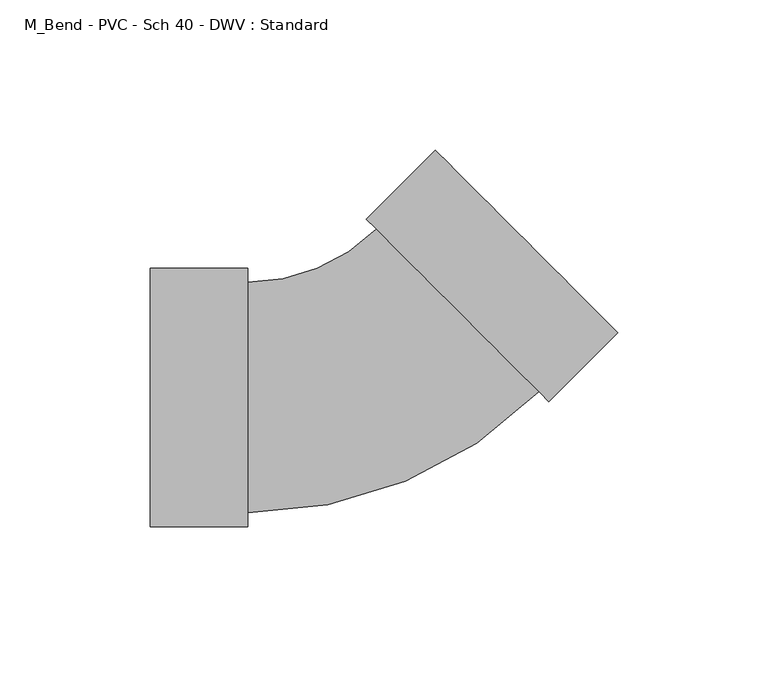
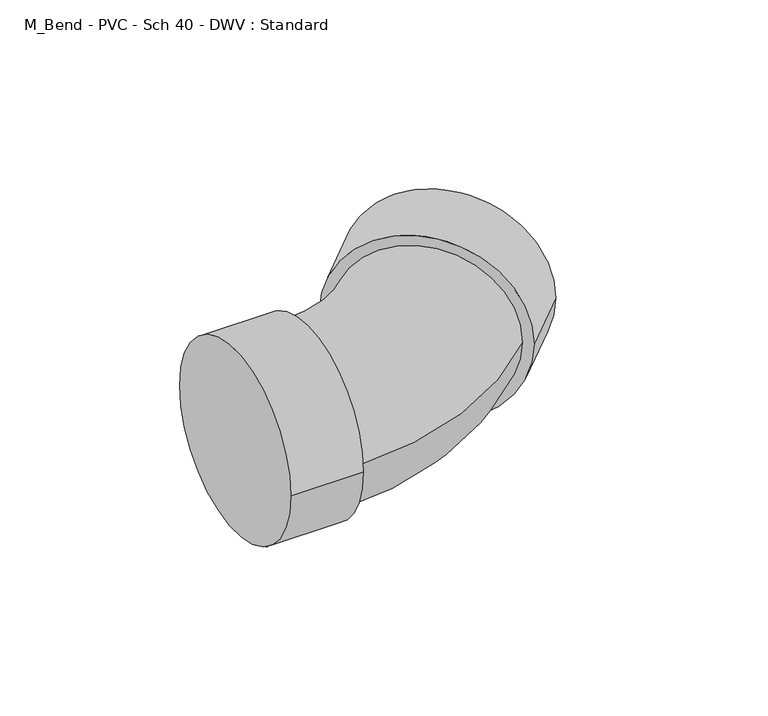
"""IFC4 building model written with IfcOpenShell, lengths in millimetres: pipe fitting geometry, M_Bend - PVC - Sch 40 - DWV : Standard."""

from ifc_helpers import new_model, si_unit, point, frame, origin, place, context, project, spatial, circle_curve, ellipse_curve, trimmed, source, transform, mapped, element, save
from ifc_brep_helpers import plane_surface, cylinder_surface, revolved_surface, advanced_brep


def m_bend_pvc_sch_40_dwv_standard_9e3ead78(model_context):
    return source(origin(), model_context, "Body", "AdvancedBrep", [
        advanced_brep(
        [(-73.4921875, -43.0871094, 0.0), (-73.4921875, 43.0871094, 0.0), (-40.9921875, -43.0871094, 0.0), (-40.9921875, 43.0871094, 0.0), (-40.9921875, -38.3640625, 0.0), (-40.9921875, 38.3640625, 0.0), (1.8619613, 56.1132233, 0.0), (56.1134615, 1.8547687, 0.0), (59.4529459, -1.4851438, 0.0), (-1.4775231, 59.4531358, 0.0), (82.4353891, 21.4943536, 0.0), (21.5049201, 82.4326333, 0.0)],
        [
            (0, 1, circle_curve(frame((-73.4921875, 0.0, 0.0), z_axis=(-1.0, 0.0, 0.0), x_axis=(0.0, 1.0, 0.0)), 43.0871094)),
            (1, 0, circle_curve(frame((-73.4921875, 0.0, 0.0), z_axis=(-1.0, 0.0, 0.0), x_axis=(0.0, 1.0, 0.0)), 43.0871094)),
            (2, 3, circle_curve(frame((-40.9921875, 0.0, 0.0), z_axis=(1.0, 0.0, 0.0), x_axis=(0.0, 1.0, 0.0)), 43.0871094)),
            (3, 2, circle_curve(frame((-40.9921875, 0.0, 0.0), z_axis=(1.0, 0.0, 0.0), x_axis=(0.0, 1.0, 0.0)), 43.0871094)),
            (4, 5, circle_curve(frame((-40.9921875, 0.0, 0.0), z_axis=(-1.0, 0.0, 0.0), x_axis=(0.0, 1.0, 0.0)), 38.3640625)),
            (5, 4, circle_curve(frame((-40.9921875, 0.0, 0.0), z_axis=(-1.0, 0.0, 0.0), x_axis=(0.0, 1.0, 0.0)), 38.3640625)),
            (0, 2),
            (3, 1),
            (6, 5, circle_curve(frame((-40.9921875, 98.9728656, 0.0), z_axis=(0.0, 0.0, -1.0), x_axis=(0.0, -1.0, 0.0)), 60.6088031)),
            (4, 7, circle_curve(frame((-40.9921875, 98.9728656, 0.0), z_axis=(0.0, 0.0, 1.0), x_axis=(0.0, -1.0, 0.0)), 137.3369281)),
            (7, 6, circle_curve(frame((28.9877114, 28.983996, 0.0), z_axis=(-0.7071520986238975, -0.7070614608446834, 0.0), x_axis=(-0.7070614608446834, 0.7071520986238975, 0.0)), 38.3640625)),
            (6, 7, circle_curve(frame((28.9877114, 28.983996, 0.0), z_axis=(-0.7071520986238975, -0.7070614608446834, 0.0), x_axis=(-0.7070614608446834, 0.7071520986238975, 0.0)), 38.3640625)),
            (8, 9, circle_curve(frame((28.9877114, 28.983996, 0.0), z_axis=(-0.7071520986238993, -0.7070614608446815, 0.0), x_axis=(-0.7070614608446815, 0.7071520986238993, 0.0)), 43.0871094)),
            (9, 8, circle_curve(frame((28.9877114, 28.983996, 0.0), z_axis=(-0.7071520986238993, -0.7070614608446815, 0.0), x_axis=(-0.7070614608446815, 0.7071520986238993, 0.0)), 43.0871094)),
            (10, 11, circle_curve(frame((51.9701546, 51.9634935, 0.0), z_axis=(0.7071520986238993, 0.7070614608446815, 0.0), x_axis=(-0.7070614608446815, 0.7071520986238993, 0.0)), 43.0871094)),
            (11, 10, circle_curve(frame((51.9701546, 51.9634935, 0.0), z_axis=(0.7071520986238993, 0.7070614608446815, 0.0), x_axis=(-0.7070614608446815, 0.7071520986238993, 0.0)), 43.0871094)),
            (8, 10),
            (11, 9),
        ],
        [
            plane_surface(frame((-73.4921875, 0.0, 0.0), z_axis=(-1.0, 0.0, 0.0), x_axis=(0.0, 0.0, 1.0))),
            plane_surface(frame((-40.9921875, 0.0, 0.0), z_axis=(1.0, 0.0, 0.0), x_axis=(0.0, 0.0, 1.0))),
            cylinder_surface(frame((-73.4921875, 0.0, 0.0), z_axis=(-1.0, 0.0, 0.0), x_axis=(0.0, 1.0, 0.0)), 43.0871094),
            revolved_surface(trimmed(ellipse_curve(frame((-40.9921875, 0.0, 0.0), z_axis=(-1.0, 0.0, 0.0), x_axis=(0.0, 1.0, 0.0)), 38.3640625, 38.3640625), [point((-40.9921875, -38.3640625, 0.0))], [point((-40.9921875, 38.3640625, 0.0))], True, "CARTESIAN"), (-40.9921875, 98.9728656, 0.0), (0.0, 0.0, 1.0)),
            revolved_surface(trimmed(ellipse_curve(frame((-40.9921875, 0.0, 0.0), z_axis=(-1.0, 0.0, 0.0), x_axis=(0.0, 1.0, 0.0)), 38.3640625, 38.3640625), [point((-40.9921875, 38.3640625, 0.0))], [point((-40.9921875, -38.3640625, 0.0))], True, "CARTESIAN"), (-40.9921875, 98.9728656, 0.0), (0.0, 0.0, 1.0)),
            plane_surface(frame((28.9877114, 28.983996, 0.0), z_axis=(-0.7071520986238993, -0.7070614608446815, 0.0), x_axis=(0.0, 0.0, 1.0))),
            plane_surface(frame((51.9701546, 51.9634935, 0.0), z_axis=(0.7071520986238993, 0.7070614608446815, 0.0), x_axis=(0.0, 0.0, 1.0))),
            cylinder_surface(frame((28.9877114, 28.983996, 0.0), z_axis=(-0.7071520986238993, -0.7070614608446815, 0.0), x_axis=(-0.7070614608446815, 0.7071520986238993, 0.0)), 43.0871094),
        ],
        [
            (0, [[1, 2]]),
            (1, [[3, 4], [5, 6]]),
            (2, [[-1, 7, -4, 8]]),
            (2, [[-2, -8, -3, -7]]),
            (3, [[9, -5, 10, 11]]),
            (4, [[-9, 12, -10, -6]]),
            (5, [[13, 14], [-11, -12]]),
            (6, [[15, 16]]),
            (7, [[-13, 17, -16, 18]]),
            (7, [[-14, -18, -15, -17]]),
        ],
    ),
    ])


if __name__ == "__main__":
    model = new_model("IFC4")
    model_context = context("Model", 3, world=origin())
    ifc_project = project(units=[si_unit("LENGTHUNIT", "METRE", prefix="MILLI")], contexts=[model_context])
    site = spatial("IfcSite", under=ifc_project)
    building = spatial("IfcBuilding", under=site)
    placement = place(None, origin())
    m_bend_pvc_sch_40_dwv_standard_shape = m_bend_pvc_sch_40_dwv_standard_9e3ead78(model_context)
    element("IfcPipeFitting", 1, ObjectType="M_Bend - PVC - Sch 40 - DWV : Standard", at=placement, inside=building, context=model_context, shape_type="MappedRepresentation", body=[
        mapped(m_bend_pvc_sch_40_dwv_standard_shape, transform((0.0, 0.0, 0.0), x_axis=(1.0, 0.0, 0.0), y_axis=(0.0, 1.0, 0.0), z_axis=(0.0, 0.0, 1.0))),
    ])
    save(model, "model.ifc")
